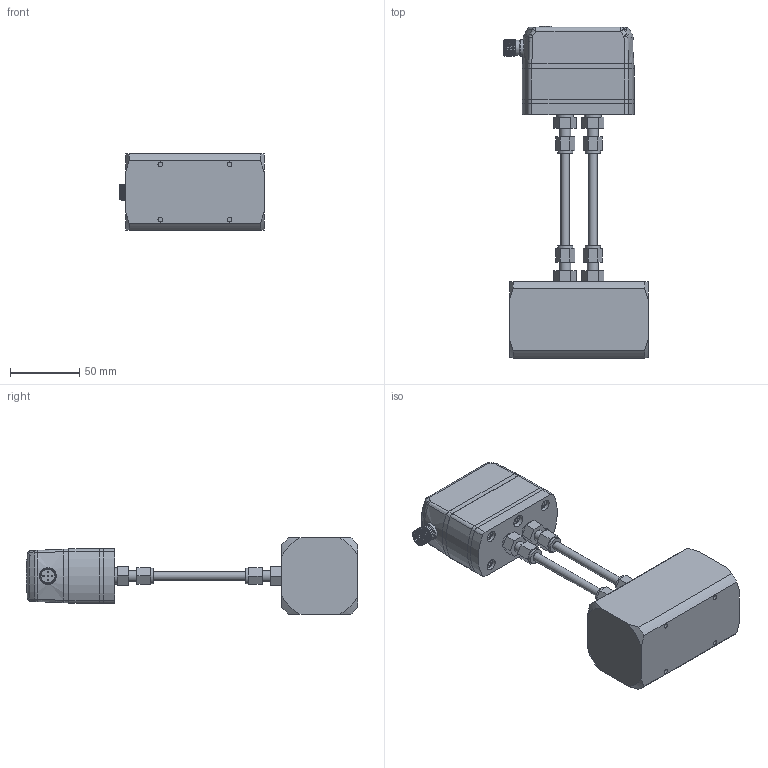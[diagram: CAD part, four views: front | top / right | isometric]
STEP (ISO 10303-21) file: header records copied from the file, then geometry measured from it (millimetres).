
FILE_DESCRIPTION( (''), '2;1');
FILE_NAME( 'QEKH_DN25_female-thread_high-temp.step', '2025-04-28T16:13:26+08:00', (''), (''), '', '', '');
FILE_SCHEMA (('AUTOMOTIVE_DESIGN { 1 0 10303 214 3 1 1 1 }'));
Products named in the file (1): QEKH DN25_female-thread_high-temp
Bounding box: 104.21 x 239.4 x 55 mm (x, y, z)
Volume: 507225 mm3; surface area: 111111.4 mm2
Topology: 30 solids, 33 shells, 1602 faces, 3936 edges, 2520 vertices
Faces by surface type: plane 805, cylinder 297, extrusion 239, cone 152, torus 52, bspline 48, sphere 9
Full cylindrical faces by diameter (mm): 1 x10, 2.05 x4, 2.6 x4, 2.7 x5, 2.874 x4, 3 x6, 3.1 x1, 3.3 x14, 3.5 x7, 3.838 x6, 4.5 x12, 5 x2, 5.5 x10, 6 x6, 7 x8, 8 x8, 9 x2, 9.8 x2, 10.8 x1, 11 x4, 11.992 x2, 12 x12, 14 x2, 14.5 x2, 17 x2, 19.1 x6
Entity records: 52729 total; most frequent: CARTESIAN_POINT 16711, ORIENTED_EDGE 7236, DIRECTION 6605, EDGE_CURVE 3618, VERTEX_POINT 2448, VECTOR 2231, AXIS2_PLACEMENT_3D 2187, EDGE_LOOP 2018
